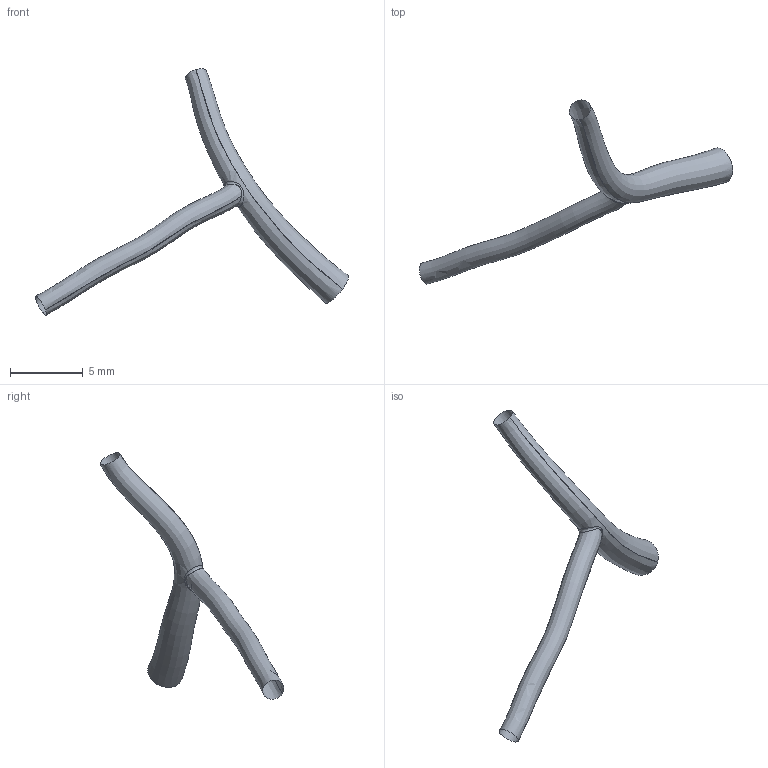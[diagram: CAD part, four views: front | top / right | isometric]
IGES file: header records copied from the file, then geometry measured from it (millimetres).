
Global section: file name: C:\Documents and Settings\Administrator\Desktop\FDA Bifurcation win\RawData_for_IGES\HRCA_Data\20000607.162451\IGES\20000607.162451.PDA.BIFUR.ED.igs; native system: Rhinoceros ( May 19 2006 ); preprocessor: Trout Lake IGES 012 May 19 2006; date: 100728.201326; units: centimetre
Bounding box: 21.53 x 12.63 x 16.94 mm (x, y, z)
Surface area: 200.7 mm2 (no closed solid volume)
Topology: 0 solids, 0 shells, 3 faces, 32 edges, 27 vertices
Faces by surface type: bspline 3
